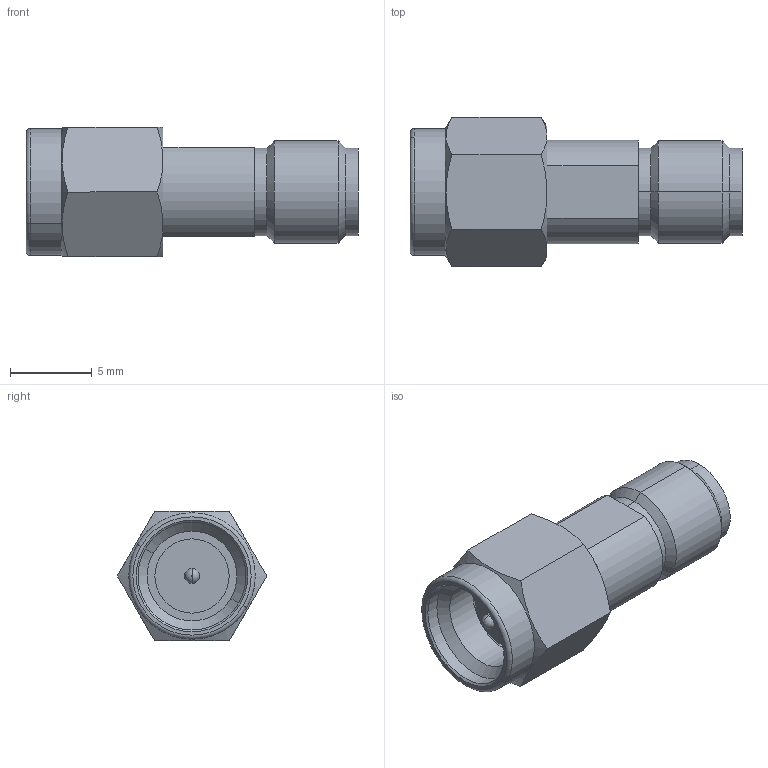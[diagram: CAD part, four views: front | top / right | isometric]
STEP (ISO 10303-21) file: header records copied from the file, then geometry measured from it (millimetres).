
FILE_DESCRIPTION (( 'STEP AP214' ), '1' );
FILE_NAME ('SF1597-6003.STEP', '2016-02-02T17:54:19', ( '' ), ( '' ), 'SwSTEP 2.0', 'SolidWorks 2015', '' );
FILE_SCHEMA (( 'AUTOMOTIVE_DESIGN' ));
Length unit declared in the file: inch
Products named in the file (1): SF1597-6003
Bounding box: 20.32 x 9.15 x 7.92 mm (x, y, z)
Volume: 639.4 mm3; surface area: 739.5 mm2
Topology: 1 solids, 1 shells, 63 faces, 138 edges, 84 vertices
Faces by surface type: cylinder 24, cone 18, plane 17, torus 4
Entity records: 2638 total; most frequent: CARTESIAN_POINT 394, DIRECTION 310, ORIENTED_EDGE 276, EDGE_CURVE 138, AXIS2_PLACEMENT_3D 128, VERTEX_POINT 84, EDGE_LOOP 70, LENGTH_MEASURE_WITH_UNIT 65
